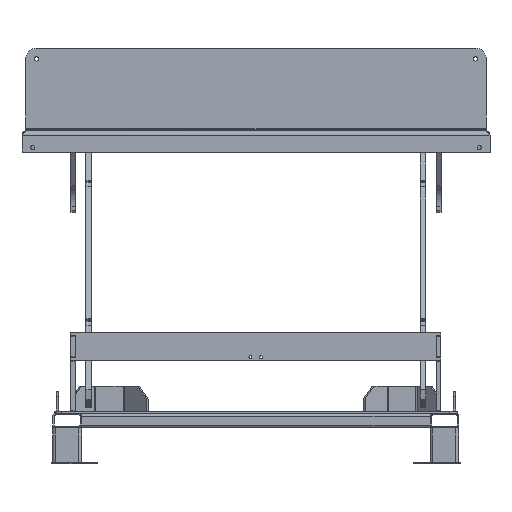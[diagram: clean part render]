
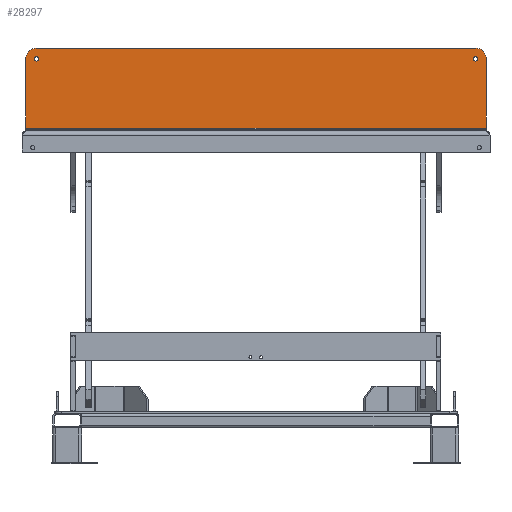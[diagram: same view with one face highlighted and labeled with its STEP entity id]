
A CAD part, left-side view. The second image highlights one B-rep face of the part: STEP entity #28297.
In plain terms, the highlighted planar face has unit normal (-1, 0, 0).
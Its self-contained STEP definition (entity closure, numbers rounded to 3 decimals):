
#417=FACE_BOUND('',#4135,.T.);
#418=FACE_BOUND('',#4136,.T.);
#947=PLANE('',#31582);
#2373=FACE_OUTER_BOUND('',#4134,.T.);
#4134=EDGE_LOOP('',(#25425,#25426,#25427,#25428,#25429,#25430));
#4135=EDGE_LOOP('',(#25431));
#4136=EDGE_LOOP('',(#25432));
#6398=LINE('',#48934,#8702);
#6404=LINE('',#48950,#8708);
#6409=LINE('',#48967,#8713);
#6410=LINE('',#48969,#8714);
#8702=VECTOR('',#40096,10.);
#8708=VECTOR('',#40112,10.);
#8713=VECTOR('',#40137,10.);
#8714=VECTOR('',#40140,10.);
#10587=CIRCLE('',#31530,6.);
#10589=CIRCLE('',#31533,6.);
#10607=CIRCLE('',#31563,30.);
#10610=CIRCLE('',#31569,30.);
#13289=VERTEX_POINT('',#48850);
#13291=VERTEX_POINT('',#48855);
#13316=VERTEX_POINT('',#48921);
#13317=VERTEX_POINT('',#48922);
#13321=VERTEX_POINT('',#48932);
#13325=VERTEX_POINT('',#48944);
#13326=VERTEX_POINT('',#48948);
#13328=VERTEX_POINT('',#48962);
#17343=EDGE_CURVE('',#13289,#13289,#10587,.T.);
#17345=EDGE_CURVE('',#13291,#13291,#10589,.T.);
#17374=EDGE_CURVE('',#13316,#13317,#10607,.T.);
#17380=EDGE_CURVE('',#13321,#13316,#6398,.T.);
#17385=EDGE_CURVE('',#13325,#13321,#10610,.T.);
#17388=EDGE_CURVE('',#13326,#13325,#6404,.T.);
#17397=EDGE_CURVE('',#13326,#13328,#6409,.T.);
#17398=EDGE_CURVE('',#13317,#13328,#6410,.T.);
#25425=ORIENTED_EDGE('',*,*,#17374,.F.);
#25426=ORIENTED_EDGE('',*,*,#17380,.F.);
#25427=ORIENTED_EDGE('',*,*,#17385,.F.);
#25428=ORIENTED_EDGE('',*,*,#17388,.F.);
#25429=ORIENTED_EDGE('',*,*,#17397,.T.);
#25430=ORIENTED_EDGE('',*,*,#17398,.F.);
#25431=ORIENTED_EDGE('',*,*,#17343,.T.);
#25432=ORIENTED_EDGE('',*,*,#17345,.T.);
#28297=ADVANCED_FACE('',(#2373,#417,#418),#947,.T.);
#31530=AXIS2_PLACEMENT_3D('',#48851,#40009,#40010);
#31533=AXIS2_PLACEMENT_3D('',#48856,#40015,#40016);
#31563=AXIS2_PLACEMENT_3D('',#48923,#40086,#40087);
#31569=AXIS2_PLACEMENT_3D('',#48945,#40106,#40107);
#31582=AXIS2_PLACEMENT_3D('',#48970,#40141,#40142);
#40009=DIRECTION('center_axis',(1.,0.,0.));
#40010=DIRECTION('ref_axis',(0.,-1.,0.));
#40015=DIRECTION('center_axis',(1.,0.,0.));
#40016=DIRECTION('ref_axis',(0.,-1.,0.));
#40086=DIRECTION('center_axis',(1.,0.,0.));
#40087=DIRECTION('ref_axis',(0.,-0.707,0.707));
#40096=DIRECTION('',(0.,-1.,0.));
#40106=DIRECTION('center_axis',(1.,0.,0.));
#40107=DIRECTION('ref_axis',(0.,0.707,0.707));
#40112=DIRECTION('',(0.,0.,1.));
#40137=DIRECTION('',(0.,-1.,0.));
#40140=DIRECTION('',(0.,0.,-1.));
#40141=DIRECTION('center_axis',(-1.,0.,0.));
#40142=DIRECTION('ref_axis',(0.,-1.,0.));
#48850=CARTESIAN_POINT('',(-705.064,-616.45,985.));
#48851=CARTESIAN_POINT('Origin',(-705.064,-610.45,985.));
#48855=CARTESIAN_POINT('',(-705.064,603.55,985.));
#48856=CARTESIAN_POINT('Origin',(-705.064,609.55,985.));
#48921=CARTESIAN_POINT('',(-705.064,-610.45,1015.));
#48922=CARTESIAN_POINT('',(-705.064,-640.45,985.));
#48923=CARTESIAN_POINT('Origin',(-705.064,-610.45,985.));
#48932=CARTESIAN_POINT('',(-705.064,609.55,1015.));
#48934=CARTESIAN_POINT('',(-705.064,-640.45,1015.));
#48944=CARTESIAN_POINT('',(-705.064,639.55,985.));
#48945=CARTESIAN_POINT('Origin',(-705.064,609.55,985.));
#48948=CARTESIAN_POINT('',(-705.064,639.55,793.));
#48950=CARTESIAN_POINT('',(-705.064,639.55,1015.));
#48962=CARTESIAN_POINT('',(-705.064,-640.45,793.));
#48967=CARTESIAN_POINT('',(-705.064,-320.45,793.));
#48969=CARTESIAN_POINT('',(-705.064,-640.45,785.));
#48970=CARTESIAN_POINT('Origin',(-705.064,-0.45,900.));
